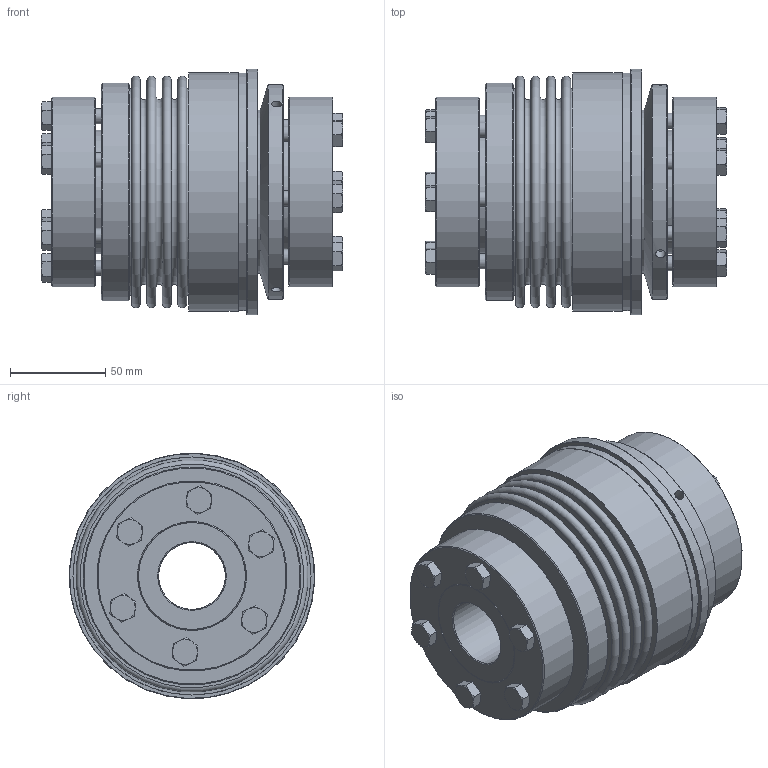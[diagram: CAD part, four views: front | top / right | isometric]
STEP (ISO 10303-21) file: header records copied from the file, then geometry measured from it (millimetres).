
FILE_DESCRIPTION( ( 'Unknown' ), '1' );
FILE_NAME( 'K:/Konstruktion/Korrigierte 3D Modelle/KBK-B-AA/KBK-BAA-500-159.stp', 'Unknown', ( 'Unknown' ), ( 'Unknown' ), 'PSStep 16.0.42', 'Unknown', ' ' );
FILE_SCHEMA( ( 'AUTOMOTIVE_DESIGN { 1 0 10303 214 1 1 1 1 }' ) );
Length unit declared in the file: millimetre
Products named in the file (18): KBK L-A-500 Grundkörper_0; Stellring 500_0; din_en_24017_m8x35_0; Druckring 500_0; Druckring L-A-500_0; A-500; BA6-500; DR500_Standard_0; Hex Screw GradeC_DIN_ISO 4018 - M8 x 40-NN_0; BA500_Standard_0; Assem1; BK500_Standard_0; Flansch BK500
Assembly tree (27 placements, depth 4):
  Assem1
    BK500_Standard_0
    Flansch BK500
    BA6-500
      DR500_Standard_0
      Hex Screw GradeC_DIN_ISO 4018 - M8 x 40-NN_0  x6
      BA500_Standard_0
    A-500
      Stellring 500_0
        Stellring 500_0
      Druckring 500_0
        Druckring 500_0
      KBK L-A-500 Grundkörper_0
        KBK L-A-500 Grundkörper_0
      din_en_24017_m8x35_0  x6
        din_en_24017_m8x35_0
      Druckring L-A-500_0
        Druckring L-A-500_0
Bounding box: 158.1 x 128.86 x 128.86 mm (x, y, z)
Volume: 963634.1 mm3; surface area: 297372.4 mm2
Topology: 20 solids, 20 shells, 407 faces, 848 edges, 538 vertices
Faces by surface type: plane 186, cone 124, cylinder 75, torus 22
Full cylindrical faces by diameter (mm): 3.242 x3, 5.1 x3, 5.2 x3, 6.647 x6, 6.8 x6, 8 x12, 8.5 x6, 9 x6, 11.63 x6, 35 x2, 62 x1, 65 x2, 65.111 x2, 80 x1, 86 x2, 90 x1, 100 x2, 104.5 x1, 107.7 x2, 108.9 x2, 113 x1, 114 x1, 114.5 x1, 125 x2, 129 x1
Entity records: 7544 total; most frequent: CARTESIAN_POINT 1283, DIRECTION 970, ORIENTED_EDGE 608, AXIS2_PLACEMENT_3D 457, EDGE_LOOP 414, EDGE_CURVE 304, FACE_OUTER_BOUND 289, VERTEX_POINT 264
